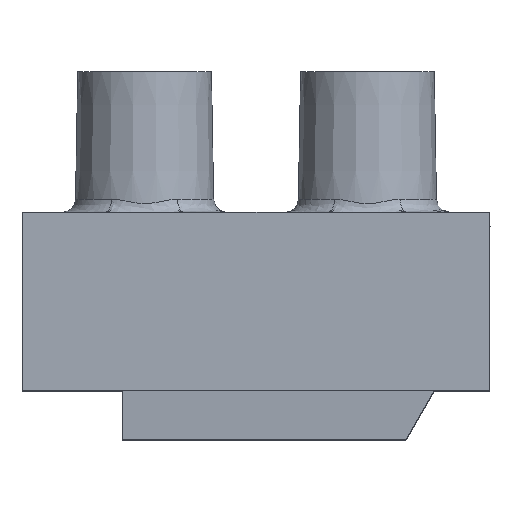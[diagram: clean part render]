
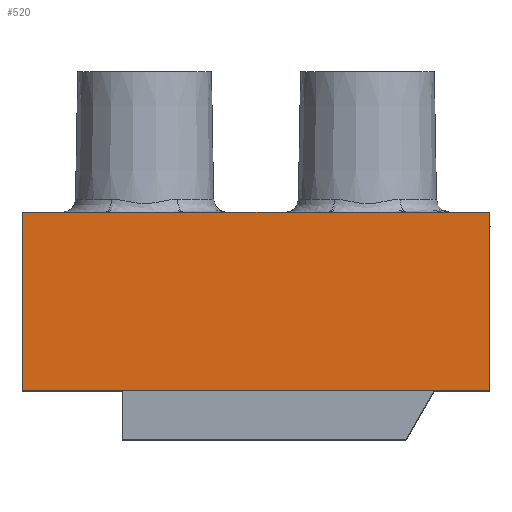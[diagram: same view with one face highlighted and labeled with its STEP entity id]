
A CAD part, top view. The second image highlights one B-rep face of the part: STEP entity #520.
In plain terms, the highlighted planar face has unit normal (0, 0, 1).
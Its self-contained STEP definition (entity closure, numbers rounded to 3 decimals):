
#148 = VERTEX_POINT ( 'NONE', #4718 ) ;
#150 = EDGE_CURVE ( 'NONE', #148, #3330, #4702, .T. ) ;
#185 = EDGE_CURVE ( 'NONE', #194, #3413, #4805, .T. ) ;
#190 = EDGE_CURVE ( 'NONE', #3483, #3913, #4863, .T. ) ;
#193 = EDGE_CURVE ( 'NONE', #217, #194, #4859, .T. ) ;
#194 = VERTEX_POINT ( 'NONE', #4855 ) ;
#202 = EDGE_CURVE ( 'NONE', #3413, #3483, #4844, .T. ) ;
#217 = VERTEX_POINT ( 'NONE', #4836 ) ;
#221 = EDGE_CURVE ( 'NONE', #3330, #217, #4899, .T. ) ;
#520 = ADVANCED_FACE ( 'NONE', ( #5423 ), #5458, .F. ) ;
#521 = EDGE_LOOP ( 'NONE', ( #522, #523, #524, #525, #526, #527, #589, #590, #591, #592 ) ) ;
#522 = ORIENTED_EDGE ( 'NONE', *, *, #202, .F. ) ;
#523 = ORIENTED_EDGE ( 'NONE', *, *, #185, .F. ) ;
#524 = ORIENTED_EDGE ( 'NONE', *, *, #193, .F. ) ;
#525 = ORIENTED_EDGE ( 'NONE', *, *, #221, .F. ) ;
#526 = ORIENTED_EDGE ( 'NONE', *, *, #150, .F. ) ;
#527 = ORIENTED_EDGE ( 'NONE', *, *, #528, .T. ) ;
#528 = EDGE_CURVE ( 'NONE', #148, #3905, #5453, .T. ) ;
#589 = ORIENTED_EDGE ( 'NONE', *, *, #3904, .F. ) ;
#590 = ORIENTED_EDGE ( 'NONE', *, *, #3980, .F. ) ;
#591 = ORIENTED_EDGE ( 'NONE', *, *, #3915, .F. ) ;
#592 = ORIENTED_EDGE ( 'NONE', *, *, #190, .F. ) ;
#3330 = VERTEX_POINT ( 'NONE', #10648 ) ;
#3413 = VERTEX_POINT ( 'NONE', #11857 ) ;
#3468 = VERTEX_POINT ( 'NONE', #11993 ) ;
#3483 = VERTEX_POINT ( 'NONE', #12070 ) ;
#3904 = EDGE_CURVE ( 'NONE', #3468, #3905, #13946, .T. ) ;
#3905 = VERTEX_POINT ( 'NONE', #13942 ) ;
#3913 = VERTEX_POINT ( 'NONE', #13974 ) ;
#3915 = EDGE_CURVE ( 'NONE', #3913, #3932, #13973, .T. ) ;
#3932 = VERTEX_POINT ( 'NONE', #14034 ) ;
#3980 = EDGE_CURVE ( 'NONE', #3932, #3468, #14120, .T. ) ;
#4702 = LINE ( 'NONE', #4717, #4716 ) ;
#4715 = DIRECTION ( 'NONE',  ( 1., 0., 0. ) ) ;
#4716 = VECTOR ( 'NONE', #4715, 1000. ) ;
#4717 = CARTESIAN_POINT ( 'NONE',  ( 10.5, 9.7, 0. ) ) ;
#4718 = CARTESIAN_POINT ( 'NONE',  ( 13.732, 9.7, 0. ) ) ;
#4804 = CARTESIAN_POINT ( 'NONE',  ( 10.5, 1.7, 0. ) ) ;
#4805 = LINE ( 'NONE', #4804, #4865 ) ;
#4836 = CARTESIAN_POINT ( 'NONE',  ( 21., 9.7, 0. ) ) ;
#4841 = DIRECTION ( 'NONE',  ( -1., 0., 0. ) ) ;
#4842 = VECTOR ( 'NONE', #4841, 1000. ) ;
#4843 = CARTESIAN_POINT ( 'NONE',  ( 10.5, 1.7, 0. ) ) ;
#4844 = LINE ( 'NONE', #4843, #4842 ) ;
#4855 = CARTESIAN_POINT ( 'NONE',  ( 21., 1.7, 0. ) ) ;
#4856 = DIRECTION ( 'NONE',  ( 0., -1., 0. ) ) ;
#4857 = VECTOR ( 'NONE', #4856, 1000. ) ;
#4858 = CARTESIAN_POINT ( 'NONE',  ( 21., 5.7, 0. ) ) ;
#4859 = LINE ( 'NONE', #4858, #4857 ) ;
#4860 = DIRECTION ( 'NONE',  ( -1., 0., 0. ) ) ;
#4861 = VECTOR ( 'NONE', #4860, 1000. ) ;
#4862 = CARTESIAN_POINT ( 'NONE',  ( 10.5, 1.7, 0. ) ) ;
#4863 = LINE ( 'NONE', #4862, #4861 ) ;
#4864 = DIRECTION ( 'NONE',  ( -1., 0., 0. ) ) ;
#4865 = VECTOR ( 'NONE', #4864, 1000. ) ;
#4896 = DIRECTION ( 'NONE',  ( 1., 0., 0. ) ) ;
#4897 = VECTOR ( 'NONE', #4896, 1000. ) ;
#4898 = CARTESIAN_POINT ( 'NONE',  ( 10.5, 9.7, 0. ) ) ;
#4899 = LINE ( 'NONE', #4898, #4897 ) ;
#5423 = FACE_OUTER_BOUND ( 'NONE', #521, .T. ) ;
#5450 = DIRECTION ( 'NONE',  ( -1., 0., 0. ) ) ;
#5451 = VECTOR ( 'NONE', #5450, 1000. ) ;
#5452 = CARTESIAN_POINT ( 'NONE',  ( 10.5, 9.7, 0. ) ) ;
#5453 = LINE ( 'NONE', #5452, #5451 ) ;
#5454 = DIRECTION ( 'NONE',  ( 0., 1., 0. ) ) ;
#5455 = DIRECTION ( 'NONE',  ( 0., 0., -1. ) ) ;
#5456 = CARTESIAN_POINT ( 'NONE',  ( 0., 1.7, 0. ) ) ;
#5457 = AXIS2_PLACEMENT_3D ( 'NONE', #5456, #5455, #5454 ) ;
#5458 = PLANE ( 'NONE',  #5457 ) ;
#10648 = CARTESIAN_POINT ( 'NONE',  ( 17.268, 9.7, 0. ) ) ;
#11857 = CARTESIAN_POINT ( 'NONE',  ( 18.5, 1.7, 0. ) ) ;
#11993 = CARTESIAN_POINT ( 'NONE',  ( 3.732, 9.7, 0. ) ) ;
#12070 = CARTESIAN_POINT ( 'NONE',  ( 4.5, 1.7, 0. ) ) ;
#13942 = CARTESIAN_POINT ( 'NONE',  ( 7.268, 9.7, 0. ) ) ;
#13943 = DIRECTION ( 'NONE',  ( 1., 0., 0. ) ) ;
#13944 = VECTOR ( 'NONE', #13943, 1000. ) ;
#13945 = CARTESIAN_POINT ( 'NONE',  ( 10.5, 9.7, 0. ) ) ;
#13946 = LINE ( 'NONE', #13945, #13944 ) ;
#13970 = DIRECTION ( 'NONE',  ( 0., 1., 0. ) ) ;
#13971 = VECTOR ( 'NONE', #13970, 1000. ) ;
#13972 = CARTESIAN_POINT ( 'NONE',  ( 0., 5.7, 0. ) ) ;
#13973 = LINE ( 'NONE', #13972, #13971 ) ;
#13974 = CARTESIAN_POINT ( 'NONE',  ( 0., 1.7, 0. ) ) ;
#14034 = CARTESIAN_POINT ( 'NONE',  ( 0., 9.7, 0. ) ) ;
#14116 = DIRECTION ( 'NONE',  ( 1., 0., 0. ) ) ;
#14117 = VECTOR ( 'NONE', #14116, 1000. ) ;
#14118 = CARTESIAN_POINT ( 'NONE',  ( 10.5, 9.7, 0. ) ) ;
#14120 = LINE ( 'NONE', #14118, #14117 ) ;
